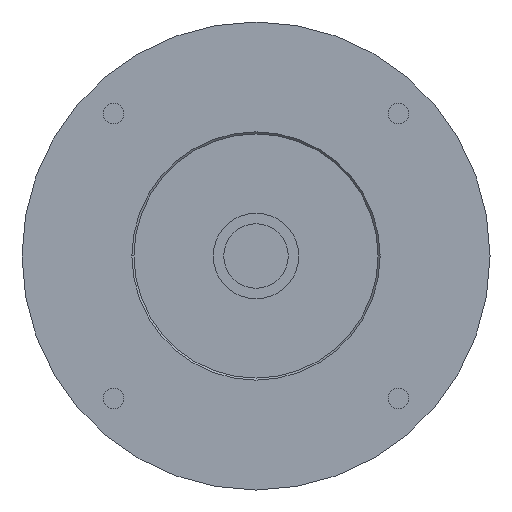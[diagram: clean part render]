
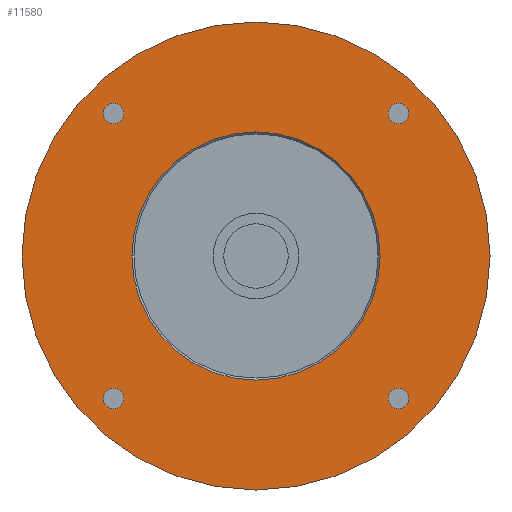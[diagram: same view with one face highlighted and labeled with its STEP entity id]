
A CAD part, left-side view. The second image highlights one B-rep face of the part: STEP entity #11580.
In plain terms, the highlighted planar face has unit normal (-1, 0, 0) as drawn and (0, 0, -1) by its records, which use the part's own axes.
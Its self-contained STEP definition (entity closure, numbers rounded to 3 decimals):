
#9090=CARTESIAN_POINT('',(0.,-57.5,-47.));
#9100=VERTEX_POINT('',#9090);
#9150=CARTESIAN_POINT('',(0.,0.,
-47.));
#9160=DIRECTION('',(0.,0.,-1.));
#9170=DIRECTION('',(0.,-1.,0.));
#9180=AXIS2_PLACEMENT_3D('',#9150,#9160,#9170);
#9190=CIRCLE('',#9180,57.5);
#9200=CARTESIAN_POINT('',(0.,57.5,-47.));
#9210=VERTEX_POINT('',#9200);
#9220=EDGE_CURVE('',#9100,#9210,#9190,.T.);
#10390=CARTESIAN_POINT('',(-35.002,-37.502,-47.));
#10400=VERTEX_POINT('',#10390);
#10430=CARTESIAN_POINT('',(-35.002,-35.002,-47.));
#10440=DIRECTION('',(0.,0.,-1.));
#10450=DIRECTION('',(1.,0.,0.));
#10460=AXIS2_PLACEMENT_3D('',#10430,#10440,#10450);
#10470=CIRCLE('',#10460,2.5);
#10480=CARTESIAN_POINT('',(-32.502,-35.002,-47.));
#10490=VERTEX_POINT('',#10480);
#10500=EDGE_CURVE('',#10490,#10400,#10470,.T.);
#10520=CARTESIAN_POINT('',(-35.002,-32.502,-47.));
#10530=VERTEX_POINT('',#10520);
#10540=EDGE_CURVE('',#10530,#10490,#10470,.T.);
#10660=CARTESIAN_POINT('',(0.,0.,
-47.));
#10670=DIRECTION('',(0.,0.,-1.));
#10680=DIRECTION('',(0.,1.,0.));
#10690=AXIS2_PLACEMENT_3D('',#10660,#10670,#10680);
#10700=PLANE('',#10690);
#10710=CARTESIAN_POINT('',(0.,0.,
-47.));
#10720=DIRECTION('',(0.,0.,-1.));
#10730=DIRECTION('',(0.,1.,0.));
#10740=AXIS2_PLACEMENT_3D('',#10710,#10720,#10730);
#10750=CIRCLE('',#10740,30.5);
#10760=CARTESIAN_POINT('',(0.,30.5,-47.));
#10770=VERTEX_POINT('',#10760);
#10780=CARTESIAN_POINT('',(30.5,0.,-47.));
#10790=VERTEX_POINT('',#10780);
#10800=EDGE_CURVE('',#10770,#10790,#10750,.T.);
#10810=ORIENTED_EDGE('',*,*,#10800,.F.);
#10820=CARTESIAN_POINT('',(-30.5,0.,-47.));
#10830=VERTEX_POINT('',#10820);
#10840=EDGE_CURVE('',#10790,#10830,#10750,.T.);
#10850=ORIENTED_EDGE('',*,*,#10840,.F.);
#10860=EDGE_CURVE('',#10830,#10770,#10750,.T.);
#10870=ORIENTED_EDGE('',*,*,#10860,.F.);
#10880=EDGE_LOOP('',(#10870,#10850,#10810));
#10890=FACE_BOUND('',#10880,.T.);
#10900=ORIENTED_EDGE('',*,*,#10500,.F.);
#10910=EDGE_CURVE('',#10400,#10530,#10470,.T.);
#10920=ORIENTED_EDGE('',*,*,#10910,.F.);
#10930=ORIENTED_EDGE('',*,*,#10540,.F.);
#10940=EDGE_LOOP('',(#10930,#10920,#10900));
#10950=FACE_BOUND('',#10940,.T.);
#10960=CARTESIAN_POINT('',(-35.002,35.002,-47.));
#10970=DIRECTION('',(0.,0.,-1.));
#10980=DIRECTION('',(1.,0.,0.));
#10990=AXIS2_PLACEMENT_3D('',#10960,#10970,#10980);
#11000=CIRCLE('',#10990,2.5);
#11010=CARTESIAN_POINT('',(-32.502,35.002,-47.));
#11020=VERTEX_POINT('',#11010);
#11030=CARTESIAN_POINT('',(-35.002,32.502,-47.));
#11040=VERTEX_POINT('',#11030);
#11050=EDGE_CURVE('',#11020,#11040,#11000,.T.);
#11060=ORIENTED_EDGE('',*,*,#11050,.F.);
#11070=CARTESIAN_POINT('',(-35.002,37.502,-47.));
#11080=VERTEX_POINT('',#11070);
#11090=EDGE_CURVE('',#11040,#11080,#11000,.T.);
#11100=ORIENTED_EDGE('',*,*,#11090,.F.);
#11110=EDGE_CURVE('',#11080,#11020,#11000,.T.);
#11120=ORIENTED_EDGE('',*,*,#11110,.F.);
#11130=EDGE_LOOP('',(#11120,#11100,#11060));
#11140=FACE_BOUND('',#11130,.T.);
#11150=CARTESIAN_POINT('',(35.002,35.002,-47.));
#11160=DIRECTION('',(0.,0.,-1.));
#11170=DIRECTION('',(1.,0.,0.));
#11180=AXIS2_PLACEMENT_3D('',#11150,#11160,#11170);
#11190=CIRCLE('',#11180,2.5);
#11200=CARTESIAN_POINT('',(37.502,35.002,-47.));
#11210=VERTEX_POINT('',#11200);
#11220=CARTESIAN_POINT('',(35.002,32.502,-47.));
#11230=VERTEX_POINT('',#11220);
#11240=EDGE_CURVE('',#11210,#11230,#11190,.T.);
#11250=ORIENTED_EDGE('',*,*,#11240,.F.);
#11260=CARTESIAN_POINT('',(35.002,37.502,-47.));
#11270=VERTEX_POINT('',#11260);
#11280=EDGE_CURVE('',#11230,#11270,#11190,.T.);
#11290=ORIENTED_EDGE('',*,*,#11280,.F.);
#11300=EDGE_CURVE('',#11270,#11210,#11190,.T.);
#11310=ORIENTED_EDGE('',*,*,#11300,.F.);
#11320=EDGE_LOOP('',(#11310,#11290,#11250));
#11330=FACE_BOUND('',#11320,.T.);
#11340=CARTESIAN_POINT('',(35.002,-35.002,-47.));
#11350=DIRECTION('',(0.,0.,-1.));
#11360=DIRECTION('',(1.,0.,0.));
#11370=AXIS2_PLACEMENT_3D('',#11340,#11350,#11360);
#11380=CIRCLE('',#11370,2.5);
#11390=CARTESIAN_POINT('',(37.502,-35.002,-47.));
#11400=VERTEX_POINT('',#11390);
#11410=CARTESIAN_POINT('',(35.002,-37.502,-47.));
#11420=VERTEX_POINT('',#11410);
#11430=EDGE_CURVE('',#11400,#11420,#11380,.T.);
#11440=ORIENTED_EDGE('',*,*,#11430,.F.);
#11450=CARTESIAN_POINT('',(35.002,-32.502,-47.));
#11460=VERTEX_POINT('',#11450);
#11470=EDGE_CURVE('',#11420,#11460,#11380,.T.);
#11480=ORIENTED_EDGE('',*,*,#11470,.F.);
#11490=EDGE_CURVE('',#11460,#11400,#11380,.T.);
#11500=ORIENTED_EDGE('',*,*,#11490,.F.);
#11510=EDGE_LOOP('',(#11500,#11480,#11440));
#11520=FACE_BOUND('',#11510,.T.);
#11530=ORIENTED_EDGE('',*,*,#9220,.T.);
#11540=EDGE_CURVE('',#9210,#9100,#9190,.T.);
#11550=ORIENTED_EDGE('',*,*,#11540,.T.);
#11560=EDGE_LOOP('',(#11550,#11530));
#11570=FACE_OUTER_BOUND('',#11560,.T.);
#11580=ADVANCED_FACE('',(#10890,#10950,#11140,#11330,#11520,#11570),
#10700,.T.);
